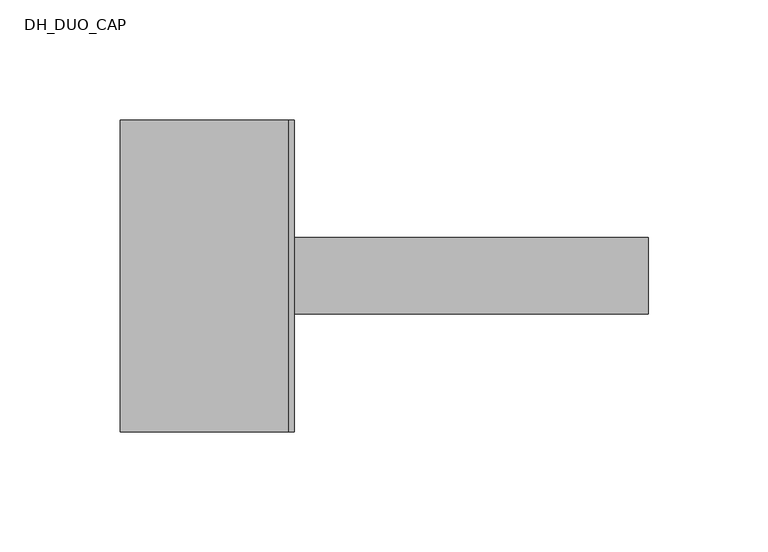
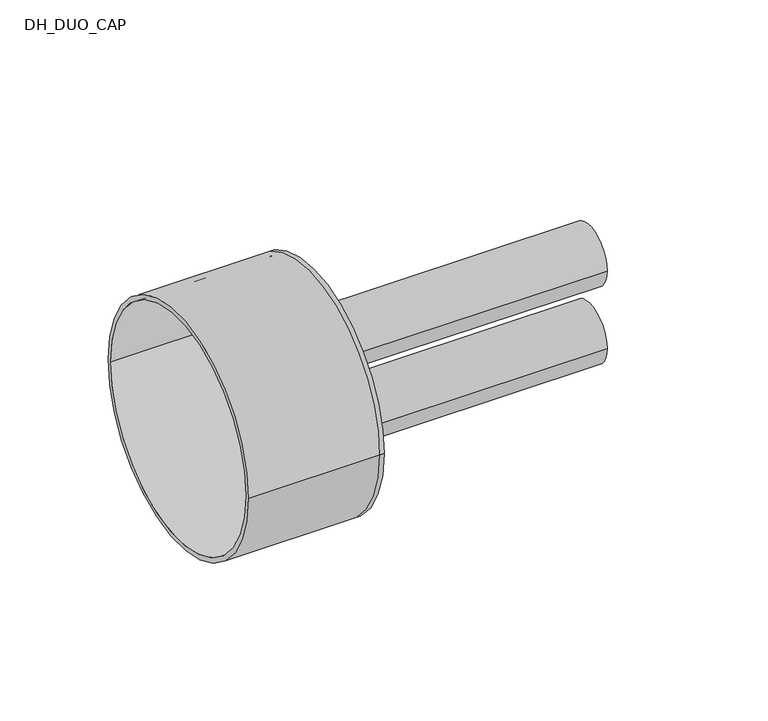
"""IFC4 building model written with IfcOpenShell, lengths in millimetres: pipe fitting geometry, DH_DUO_CAP : RAUVIPEX DUO 11 Heating - Solid Cap."""

from ifc_helpers import new_model, si_unit, point, frame, frame_2d, origin, place, context, project, spatial, polyline, circle_curve, trimmed, segment, composite_curve, outline, extrude, source, transform, mapped, element, save
from ifc_brep_helpers import plane_surface, cylinder_surface, revolved_surface, advanced_brep


def dh_duo_cap_f26f5e47(model_context):
    return source(origin(), model_context, "Body", "SolidModel", [
        extrude(outline(composite_curve([segment(trimmed(circle_curve(frame_2d((0.0, -22.0)), 16.0), [point((-16.0, -22.0))], [point((16.0, -22.0))], False, "CARTESIAN"), True, "CONTINUOUS"), segment(trimmed(circle_curve(frame_2d((0.0, -22.0)), 16.0), [point((16.0, -22.0))], [point((-16.0, -22.0))], False, "CARTESIAN"), True, "CONTINUOUS")], self_intersect=False), holes=[composite_curve([segment(trimmed(circle_curve(frame_2d((0.0, -22.0)), 13.1), [point((-13.1, -22.0))], [point((13.1, -22.0))], True, "CARTESIAN"), True, "CONTINUOUS"), segment(trimmed(circle_curve(frame_2d((0.0, -22.0)), 13.1), [point((13.1, -22.0))], [point((-13.1, -22.0))], True, "CARTESIAN"), True, "CONTINUOUS")], self_intersect=False)]), frame((0.0, 0.0, 0.0), z_axis=(1.0, 0.0, 0.0), x_axis=(0.0, 1.0, 0.0)), (0.0, 0.0, 1.0), 150.0),
        extrude(outline(composite_curve([segment(trimmed(circle_curve(frame_2d((0.0, 22.0)), 16.0), [point((-16.0, 22.0))], [point((16.0, 22.0))], False, "CARTESIAN"), True, "CONTINUOUS"), segment(trimmed(circle_curve(frame_2d((0.0, 22.0)), 16.0), [point((16.0, 22.0))], [point((-16.0, 22.0))], False, "CARTESIAN"), True, "CONTINUOUS")], self_intersect=False), holes=[composite_curve([segment(trimmed(circle_curve(frame_2d((0.0, 22.0)), 13.1), [point((-13.1, 22.0))], [point((13.1, 22.0))], True, "CARTESIAN"), True, "CONTINUOUS"), segment(trimmed(circle_curve(frame_2d((0.0, 22.0)), 13.1), [point((13.1, 22.0))], [point((-13.1, 22.0))], True, "CARTESIAN"), True, "CONTINUOUS")], self_intersect=False)]), frame((0.0, 0.0, 0.0), z_axis=(1.0, 0.0, 0.0), x_axis=(0.0, 1.0, 0.0)), (0.0, 0.0, 1.0), 150.0),
        advanced_brep(
        [(-70.0, -65.0, 0.0), (-70.0, 65.0, 0.0), (-70.0, -62.5, 0.0), (-70.0, 62.5, 0.0), (0.0, -62.5, 0.0), (0.0, 62.5, 0.0), (0.0, -65.0, 0.0), (0.0, 65.0, 0.0), (0.0, 16.0, 22.0), (0.0, -16.0, 22.0), (0.0, 16.0, -22.0), (0.0, -16.0, -22.0), (2.5, -65.0, 0.0), (2.5, 65.0, 0.0), (2.5, -16.0, 22.0), (2.5, 16.0, 22.0), (2.5, -16.0, -22.0), (2.5, 16.0, -22.0)],
        [
            (0, 1, circle_curve(frame((-70.0, 0.0, 0.0), z_axis=(-1.0, 0.0, 0.0), x_axis=(0.0, 1.0, 0.0)), 65.0)),
            (1, 0, circle_curve(frame((-70.0, 0.0, 0.0), z_axis=(-1.0, 0.0, 0.0), x_axis=(0.0, 1.0, 0.0)), 65.0)),
            (2, 3, circle_curve(frame((-70.0, 0.0, 0.0), z_axis=(1.0, 0.0, 0.0), x_axis=(0.0, 1.0, 0.0)), 62.5)),
            (3, 2, circle_curve(frame((-70.0, 0.0, 0.0), z_axis=(1.0, 0.0, 0.0), x_axis=(0.0, 1.0, 0.0)), 62.5)),
            (2, 4),
            (4, 5, circle_curve(frame((0.0, 0.0, 0.0), z_axis=(1.0, 0.0, 0.0), x_axis=(0.0, 1.0, 0.0)), 62.5)),
            (5, 3),
            (5, 4, circle_curve(frame((0.0, 0.0, 0.0), z_axis=(1.0, 0.0, 0.0), x_axis=(0.0, 1.0, 0.0)), 62.5)),
            (0, 6),
            (6, 7, circle_curve(frame((0.0, 0.0, 0.0), z_axis=(-1.0, 0.0, 0.0), x_axis=(0.0, 1.0, 0.0)), 65.0)),
            (7, 1),
            (7, 6, circle_curve(frame((0.0, 0.0, 0.0), z_axis=(-1.0, 0.0, 0.0), x_axis=(0.0, 1.0, 0.0)), 65.0)),
            (8, 9, circle_curve(frame((0.0, 0.0, 22.0), z_axis=(1.0, 0.0, 0.0), x_axis=(0.0, 1.0, 0.0)), 16.0)),
            (9, 8, circle_curve(frame((0.0, 0.0, 22.0), z_axis=(1.0, 0.0, 0.0), x_axis=(0.0, 1.0, 0.0)), 16.0)),
            (10, 11, circle_curve(frame((0.0, 0.0, -22.0), z_axis=(1.0, 0.0, 0.0), x_axis=(0.0, 1.0, 0.0)), 16.0)),
            (11, 10, circle_curve(frame((0.0, 0.0, -22.0), z_axis=(1.0, 0.0, 0.0), x_axis=(0.0, 1.0, 0.0)), 16.0)),
            (12, 13, circle_curve(frame((2.5, 0.0, 0.0), z_axis=(1.0, 0.0, 0.0), x_axis=(0.0, 1.0, 0.0)), 65.0)),
            (13, 12, circle_curve(frame((2.5, 0.0, 0.0), z_axis=(1.0, 0.0, 0.0), x_axis=(0.0, 1.0, 0.0)), 65.0)),
            (14, 15, circle_curve(frame((2.5, 0.0, 22.0), z_axis=(-1.0, 0.0, 0.0), x_axis=(0.0, 1.0, 0.0)), 16.0)),
            (15, 14, circle_curve(frame((2.5, 0.0, 22.0), z_axis=(-1.0, 0.0, 0.0), x_axis=(0.0, 1.0, 0.0)), 16.0)),
            (16, 17, circle_curve(frame((2.5, 0.0, -22.0), z_axis=(-1.0, 0.0, 0.0), x_axis=(0.0, 1.0, 0.0)), 16.0)),
            (17, 16, circle_curve(frame((2.5, 0.0, -22.0), z_axis=(-1.0, 0.0, 0.0), x_axis=(0.0, 1.0, 0.0)), 16.0)),
            (13, 7),
            (6, 12),
            (8, 15),
            (14, 9),
            (10, 17),
            (16, 11),
        ],
        [
            plane_surface(frame((-70.0, 0.0, 0.0), z_axis=(-1.0, 0.0, 0.0), x_axis=(0.0, 0.0, 1.0))),
            revolved_surface(polyline([(0.0, 62.5, 0.0), (-70.0, 62.5, 0.0)]), (-70.0, 0.0, 0.0), (1.0, 0.0, 0.0)),
            cylinder_surface(frame((-70.0, 0.0, 0.0), z_axis=(-1.0, 0.0, 0.0), x_axis=(0.0, 1.0, 0.0)), 65.0),
            plane_surface(frame((0.0, 0.0, 0.0), z_axis=(-1.0, 0.0, 0.0), x_axis=(0.0, 0.0, 1.0))),
            plane_surface(frame((2.5, 0.0, 0.0), z_axis=(1.0, 0.0, 0.0), x_axis=(0.0, 0.0, 1.0))),
            cylinder_surface(frame((0.0, 0.0, 0.0), z_axis=(-1.0, 0.0, 0.0), x_axis=(0.0, 1.0, 0.0)), 65.0),
            revolved_surface(polyline([(0.0, 16.0, 22.0), (2.5, 16.0, 22.0)]), (0.0, 0.0, 22.0), (-1.0, 0.0, 0.0)),
            revolved_surface(polyline([(0.0, 16.0, -22.0), (2.5, 16.0, -22.0)]), (0.0, 0.0, -22.0), (-1.0, 0.0, 0.0)),
        ],
        [
            (0, [[1, 2], [3, 4]]),
            (1, [[-3, 5, 6, 7]]),
            (1, [[-4, -7, 8, -5]]),
            (2, [[-1, 9, 10, 11]]),
            (2, [[-2, -11, 12, -9]]),
            (3, [[-6, -8], [13, 14], [15, 16]]),
            (4, [[17, 18], [19, 20], [21, 22]]),
            (5, [[-18, 23, -10, 24]]),
            (5, [[-17, -24, -12, -23]]),
            (6, [[25, -19, 26, -13]]),
            (6, [[-25, -14, -26, -20]]),
            (7, [[27, -21, 28, -15]]),
            (7, [[-27, -16, -28, -22]]),
        ],
    ),
    ])


if __name__ == "__main__":
    model = new_model("IFC4")
    model_context = context("Model", 3, world=origin())
    ifc_project = project(units=[si_unit("LENGTHUNIT", "METRE", prefix="MILLI")], contexts=[model_context])
    site = spatial("IfcSite", under=ifc_project)
    building = spatial("IfcBuilding", under=site)
    placement = place(None, origin())
    dh_duo_cap_shape = dh_duo_cap_f26f5e47(model_context)
    element("IfcPipeFitting", 1, ObjectType="DH_DUO_CAP : RAUVIPEX DUO 11 Heating - Solid Cap", at=placement, inside=building, context=model_context, shape_type="MappedRepresentation", body=[
        mapped(dh_duo_cap_shape, transform((0.0, 0.0, 0.0), x_axis=(1.0, 0.0, 0.0), y_axis=(0.0, 1.0, 0.0), z_axis=(0.0, 0.0, 1.0))),
    ])
    save(model, "model.ifc")
